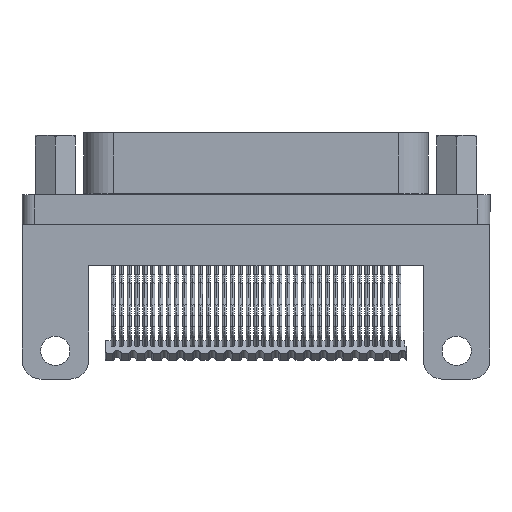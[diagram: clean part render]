
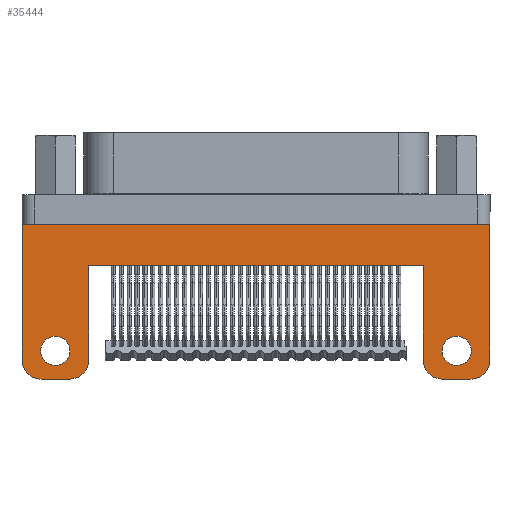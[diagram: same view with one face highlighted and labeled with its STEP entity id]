
A CAD part, front view. The second image highlights one B-rep face of the part: STEP entity #35444.
In plain terms, the highlighted planar face has unit normal (0, -1, 0).
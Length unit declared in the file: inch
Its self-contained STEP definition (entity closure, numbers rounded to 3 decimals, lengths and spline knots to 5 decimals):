
#474 = AXIS2_PLACEMENT_3D ( 'NONE', #43965, #7396, #50056 ) ;
#859 = DIRECTION ( 'NONE',  ( 0., 1., 0. ) ) ;
#1253 = AXIS2_PLACEMENT_3D ( 'NONE', #36995, #63732, #6540 ) ;
#1931 = DIRECTION ( 'NONE',  ( 0., 0., 1. ) ) ;
#2653 = ORIENTED_EDGE ( 'NONE', *, *, #46784, .F. ) ;
#3014 = CARTESIAN_POINT ( 'NONE',  ( 0.5875, -0.17, -0.481 ) ) ;
#3509 = LINE ( 'NONE', #8225, #17837 ) ;
#3665 = FACE_OUTER_BOUND ( 'NONE', #51751, .T. ) ;
#4314 = EDGE_CURVE ( 'NONE', #34451, #41580, #28342, .T. ) ;
#4470 = VERTEX_POINT ( 'NONE', #4627 ) ;
#4627 = CARTESIAN_POINT ( 'NONE',  ( 0.6775, -0.17, -0.541 ) ) ;
#5085 = CARTESIAN_POINT ( 'NONE',  ( -0.6775, -0.17, -0.541 ) ) ;
#5358 = CARTESIAN_POINT ( 'NONE',  ( 0., -0.17, -0.541 ) ) ;
#5581 = EDGE_CURVE ( 'NONE', #49764, #32361, #35030, .T. ) ;
#6540 = DIRECTION ( 'NONE',  ( 0., 0., 1. ) ) ;
#7061 = LINE ( 'NONE', #5358, #66221 ) ;
#7068 = DIRECTION ( 'NONE',  ( -1., 0., 0. ) ) ;
#7371 = ORIENTED_EDGE ( 'NONE', *, *, #59101, .F. ) ;
#7396 = DIRECTION ( 'NONE',  ( 0., 1., 0. ) ) ;
#8225 = CARTESIAN_POINT ( 'NONE',  ( 0., -0.17, -0.541 ) ) ;
#8943 = LINE ( 'NONE', #57763, #71937 ) ;
#9789 = DIRECTION ( 'NONE',  ( 0., -1., 0. ) ) ;
#10681 = VERTEX_POINT ( 'NONE', #26918 ) ;
#10789 = CARTESIAN_POINT ( 'NONE',  ( 0.7375, -0.17, -1.69331 ) ) ;
#11304 = CARTESIAN_POINT ( 'NONE',  ( 0.7375, -0.17, -1.69331 ) ) ;
#11701 = EDGE_CURVE ( 'NONE', #27448, #77135, #8943, .T. ) ;
#13436 = CARTESIAN_POINT ( 'NONE',  ( -0.6325, -0.17, -0.452 ) ) ;
#13585 = ORIENTED_EDGE ( 'NONE', *, *, #49435, .T. ) ;
#14761 = VERTEX_POINT ( 'NONE', #75450 ) ;
#15030 = DIRECTION ( 'NONE',  ( 0., 0., 1. ) ) ;
#15809 = AXIS2_PLACEMENT_3D ( 'NONE', #13436, #68724, #67503 ) ;
#16475 = EDGE_LOOP ( 'NONE', ( #68783, #39135 ) ) ;
#17837 = VECTOR ( 'NONE', #19532, 39.37008 ) ;
#18456 = AXIS2_PLACEMENT_3D ( 'NONE', #37425, #859, #43546 ) ;
#19004 = DIRECTION ( 'NONE',  ( 0., -1., 0. ) ) ;
#19532 = DIRECTION ( 'NONE',  ( -1., 0., 0. ) ) ;
#20311 = VECTOR ( 'NONE', #7068, 39.37008 ) ;
#21050 = VERTEX_POINT ( 'NONE', #42055 ) ;
#21473 = VERTEX_POINT ( 'NONE', #42572 ) ;
#22521 = CARTESIAN_POINT ( 'NONE',  ( -0.5865, -0.17, -0.452 ) ) ;
#22774 = AXIS2_PLACEMENT_3D ( 'NONE', #3014, #67298, #47304 ) ;
#23225 = EDGE_CURVE ( 'NONE', #21473, #10681, #74072, .T. ) ;
#23293 = PLANE ( 'NONE',  #27041 ) ;
#23784 = CARTESIAN_POINT ( 'NONE',  ( -0.5275, -0.17, -0.481 ) ) ;
#24439 = LINE ( 'NONE', #62933, #71170 ) ;
#24792 = CARTESIAN_POINT ( 'NONE',  ( 0.7375, -0.17, -0.053 ) ) ;
#25335 = EDGE_CURVE ( 'NONE', #44868, #10681, #68985, .T. ) ;
#26918 = CARTESIAN_POINT ( 'NONE',  ( -0.7375, -0.17, -0.053 ) ) ;
#27041 = AXIS2_PLACEMENT_3D ( 'NONE', #10789, #29489, #72104 ) ;
#27448 = VERTEX_POINT ( 'NONE', #23784 ) ;
#28342 = CIRCLE ( 'NONE', #1253, 0.046 ) ;
#29078 = CARTESIAN_POINT ( 'NONE',  ( 0.7375, -0.17, -0.184 ) ) ;
#29489 = DIRECTION ( 'NONE',  ( 0., 1., 0. ) ) ;
#31064 = CARTESIAN_POINT ( 'NONE',  ( 0.7375, -0.17, -0.481 ) ) ;
#32361 = VERTEX_POINT ( 'NONE', #33577 ) ;
#32592 = EDGE_CURVE ( 'NONE', #21050, #62099, #52217, .T. ) ;
#32625 = EDGE_CURVE ( 'NONE', #4470, #32361, #3509, .T. ) ;
#33354 = EDGE_CURVE ( 'NONE', #21473, #62792, #36863, .T. ) ;
#33577 = CARTESIAN_POINT ( 'NONE',  ( 0.5875, -0.17, -0.541 ) ) ;
#34272 = FACE_BOUND ( 'NONE', #42914, .T. ) ;
#34451 = VERTEX_POINT ( 'NONE', #53032 ) ;
#35030 = CIRCLE ( 'NONE', #22774, 0.06 ) ;
#35444 = ADVANCED_FACE ( 'NONE', ( #34272, #66638, #3665 ), #23293, .F. ) ;
#35873 = ORIENTED_EDGE ( 'NONE', *, *, #32625, .F. ) ;
#36863 = CIRCLE ( 'NONE', #43803, 0.06 ) ;
#36995 = CARTESIAN_POINT ( 'NONE',  ( 0.6325, -0.17, -0.452 ) ) ;
#37194 = CARTESIAN_POINT ( 'NONE',  ( 0.6785, -0.17, -0.452 ) ) ;
#37425 = CARTESIAN_POINT ( 'NONE',  ( -0.6325, -0.17, -0.452 ) ) ;
#37770 = EDGE_CURVE ( 'NONE', #77135, #74183, #67232, .T. ) ;
#37954 = ORIENTED_EDGE ( 'NONE', *, *, #11701, .T. ) ;
#38348 = CIRCLE ( 'NONE', #41216, 0.06 ) ;
#38488 = DIRECTION ( 'NONE',  ( 0., -1., 0. ) ) ;
#39135 = ORIENTED_EDGE ( 'NONE', *, *, #71747, .T. ) ;
#40041 = VERTEX_POINT ( 'NONE', #31064 ) ;
#41216 = AXIS2_PLACEMENT_3D ( 'NONE', #55538, #19004, #61676 ) ;
#41580 = VERTEX_POINT ( 'NONE', #37194 ) ;
#41928 = CARTESIAN_POINT ( 'NONE',  ( -0.5275, -0.17, -0.184 ) ) ;
#42055 = CARTESIAN_POINT ( 'NONE',  ( -0.6785, -0.17, -0.452 ) ) ;
#42161 = ORIENTED_EDGE ( 'NONE', *, *, #4314, .T. ) ;
#42572 = CARTESIAN_POINT ( 'NONE',  ( -0.7375, -0.17, -0.481 ) ) ;
#42914 = EDGE_LOOP ( 'NONE', ( #42161, #51888 ) ) ;
#43457 = EDGE_CURVE ( 'NONE', #14761, #27448, #53899, .T. ) ;
#43546 = DIRECTION ( 'NONE',  ( 0., 0., 1. ) ) ;
#43629 = LINE ( 'NONE', #11304, #57850 ) ;
#43803 = AXIS2_PLACEMENT_3D ( 'NONE', #58542, #9789, #46315 ) ;
#43965 = CARTESIAN_POINT ( 'NONE',  ( 0.6325, -0.17, -0.452 ) ) ;
#44868 = VERTEX_POINT ( 'NONE', #45459 ) ;
#45459 = CARTESIAN_POINT ( 'NONE',  ( 0.7375, -0.17, -0.053 ) ) ;
#46315 = DIRECTION ( 'NONE',  ( 0., 0., 1. ) ) ;
#46784 = EDGE_CURVE ( 'NONE', #14761, #62792, #7061, .T. ) ;
#47304 = DIRECTION ( 'NONE',  ( 0., 0., 1. ) ) ;
#49435 = EDGE_CURVE ( 'NONE', #4470, #40041, #38348, .T. ) ;
#49764 = VERTEX_POINT ( 'NONE', #74137 ) ;
#50056 = DIRECTION ( 'NONE',  ( 0., 0., 1. ) ) ;
#50293 = ORIENTED_EDGE ( 'NONE', *, *, #25335, .T. ) ;
#51038 = VECTOR ( 'NONE', #53575, 39.37008 ) ;
#51712 = DIRECTION ( 'NONE',  ( 0., 0., 1. ) ) ;
#51751 = EDGE_LOOP ( 'NONE', ( #63131, #56907, #2653, #57832, #37954, #55271, #7371, #55942, #35873, #13585, #60853, #50293 ) ) ;
#51888 = ORIENTED_EDGE ( 'NONE', *, *, #77203, .T. ) ;
#52217 = CIRCLE ( 'NONE', #15809, 0.046 ) ;
#53032 = CARTESIAN_POINT ( 'NONE',  ( 0.5865, -0.17, -0.452 ) ) ;
#53139 = CARTESIAN_POINT ( 'NONE',  ( -0.7375, -0.17, -1.69331 ) ) ;
#53575 = DIRECTION ( 'NONE',  ( 1., 0., 0. ) ) ;
#53899 = CIRCLE ( 'NONE', #66654, 0.06 ) ;
#55100 = EDGE_CURVE ( 'NONE', #40041, #44868, #43629, .T. ) ;
#55271 = ORIENTED_EDGE ( 'NONE', *, *, #37770, .T. ) ;
#55538 = CARTESIAN_POINT ( 'NONE',  ( 0.6775, -0.17, -0.481 ) ) ;
#55942 = ORIENTED_EDGE ( 'NONE', *, *, #5581, .T. ) ;
#56907 = ORIENTED_EDGE ( 'NONE', *, *, #33354, .T. ) ;
#57763 = CARTESIAN_POINT ( 'NONE',  ( -0.5275, -0.17, -1.3404 ) ) ;
#57832 = ORIENTED_EDGE ( 'NONE', *, *, #43457, .T. ) ;
#57850 = VECTOR ( 'NONE', #66179, 39.37008 ) ;
#58542 = CARTESIAN_POINT ( 'NONE',  ( -0.6775, -0.17, -0.481 ) ) ;
#59101 = EDGE_CURVE ( 'NONE', #49764, #74183, #24439, .T. ) ;
#60853 = ORIENTED_EDGE ( 'NONE', *, *, #55100, .T. ) ;
#61676 = DIRECTION ( 'NONE',  ( 0., 0., 1. ) ) ;
#61773 = CARTESIAN_POINT ( 'NONE',  ( 0.5275, -0.17, -0.184 ) ) ;
#62099 = VERTEX_POINT ( 'NONE', #22521 ) ;
#62683 = DIRECTION ( 'NONE',  ( 0., 0., 1. ) ) ;
#62792 = VERTEX_POINT ( 'NONE', #5085 ) ;
#62933 = CARTESIAN_POINT ( 'NONE',  ( 0.5275, -0.17, -1.3404 ) ) ;
#63131 = ORIENTED_EDGE ( 'NONE', *, *, #23225, .F. ) ;
#63732 = DIRECTION ( 'NONE',  ( 0., 1., 0. ) ) ;
#66179 = DIRECTION ( 'NONE',  ( 0., 0., 1. ) ) ;
#66221 = VECTOR ( 'NONE', #72318, 39.37008 ) ;
#66638 = FACE_BOUND ( 'NONE', #16475, .T. ) ;
#66654 = AXIS2_PLACEMENT_3D ( 'NONE', #74987, #38488, #1931 ) ;
#67232 = LINE ( 'NONE', #29078, #51038 ) ;
#67298 = DIRECTION ( 'NONE',  ( 0., -1., 0. ) ) ;
#67357 = CIRCLE ( 'NONE', #18456, 0.046 ) ;
#67503 = DIRECTION ( 'NONE',  ( 0., 0., 1. ) ) ;
#68724 = DIRECTION ( 'NONE',  ( 0., 1., 0. ) ) ;
#68783 = ORIENTED_EDGE ( 'NONE', *, *, #32592, .T. ) ;
#68985 = LINE ( 'NONE', #24792, #20311 ) ;
#71170 = VECTOR ( 'NONE', #62683, 39.37008 ) ;
#71747 = EDGE_CURVE ( 'NONE', #62099, #21050, #67357, .T. ) ;
#71937 = VECTOR ( 'NONE', #51712, 39.37008 ) ;
#72104 = DIRECTION ( 'NONE',  ( 0., 0., 1. ) ) ;
#72186 = VECTOR ( 'NONE', #15030, 39.37008 ) ;
#72318 = DIRECTION ( 'NONE',  ( -1., 0., 0. ) ) ;
#74072 = LINE ( 'NONE', #53139, #72186 ) ;
#74137 = CARTESIAN_POINT ( 'NONE',  ( 0.5275, -0.17, -0.481 ) ) ;
#74183 = VERTEX_POINT ( 'NONE', #61773 ) ;
#74987 = CARTESIAN_POINT ( 'NONE',  ( -0.5875, -0.17, -0.481 ) ) ;
#75450 = CARTESIAN_POINT ( 'NONE',  ( -0.5875, -0.17, -0.541 ) ) ;
#77135 = VERTEX_POINT ( 'NONE', #41928 ) ;
#77203 = EDGE_CURVE ( 'NONE', #41580, #34451, #77899, .T. ) ;
#77899 = CIRCLE ( 'NONE', #474, 0.046 ) ;
